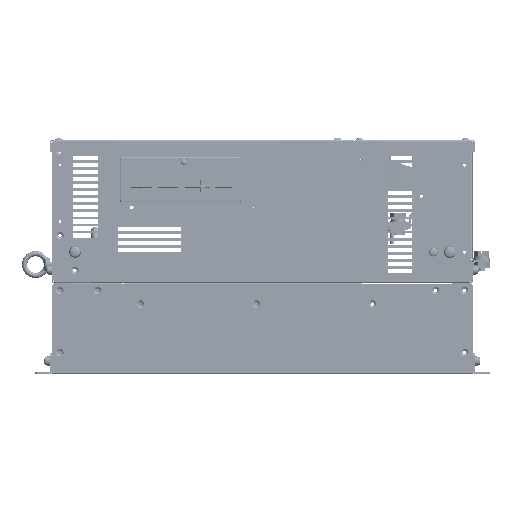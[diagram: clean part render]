
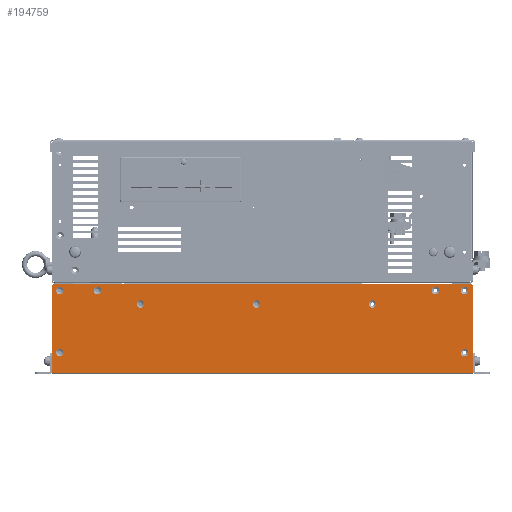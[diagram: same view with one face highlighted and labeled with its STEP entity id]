
A CAD part, left-side view. The second image highlights one B-rep face of the part: STEP entity #194759.
In plain terms, the highlighted planar face has unit normal (-1, 0, 0).
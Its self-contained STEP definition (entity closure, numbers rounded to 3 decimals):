
#52277=DIRECTION('',(0.,0.707,0.707));
#52278=VECTOR('',#52277,2.828);
#52279=CARTESIAN_POINT('',(-152.5,-254.,107.6));
#52280=LINE('',#52279,#52278);
#52281=DIRECTION('',(0.,0.,1.));
#52282=VECTOR('',#52281,105.5);
#52283=CARTESIAN_POINT('',(-152.5,-254.,2.1));
#52284=LINE('',#52283,#52282);
#52285=DIRECTION('',(0.,0.,-1.));
#52286=VECTOR('',#52285,105.5);
#52287=CARTESIAN_POINT('',(-152.5,254.,107.6));
#52288=LINE('',#52287,#52286);
#52289=DIRECTION('',(0.,0.707,-0.707));
#52290=VECTOR('',#52289,2.828);
#52291=CARTESIAN_POINT('',(-152.5,252.,109.6));
#52292=LINE('',#52291,#52290);
#52293=DIRECTION('',(0.,1.,0.));
#52294=VECTOR('',#52293,504.);
#52295=CARTESIAN_POINT('',(-152.5,-252.,109.6));
#52296=LINE('',#52295,#52294);
#52297=CARTESIAN_POINT('',(-152.5,147.,84.9));
#52298=DIRECTION('',(1.,0.,0.));
#52299=DIRECTION('',(0.,-1.,0.));
#52300=AXIS2_PLACEMENT_3D('',#52297,#52298,#52299);
#52302=CARTESIAN_POINT('',(-152.5,147.,84.9));
#52303=DIRECTION('',(1.,0.,0.));
#52304=DIRECTION('',(0.,1.,0.));
#52305=AXIS2_PLACEMENT_3D('',#52302,#52303,#52304);
#52307=CARTESIAN_POINT('',(-152.5,7.,84.9));
#52308=DIRECTION('',(1.,0.,0.));
#52309=DIRECTION('',(0.,-1.,0.));
#52310=AXIS2_PLACEMENT_3D('',#52307,#52308,#52309);
#52312=CARTESIAN_POINT('',(-152.5,7.,84.9));
#52313=DIRECTION('',(1.,0.,0.));
#52314=DIRECTION('',(0.,1.,0.));
#52315=AXIS2_PLACEMENT_3D('',#52312,#52313,#52314);
#52317=CARTESIAN_POINT('',(-152.5,-133.,84.9));
#52318=DIRECTION('',(1.,0.,0.));
#52319=DIRECTION('',(0.,-1.,0.));
#52320=AXIS2_PLACEMENT_3D('',#52317,#52318,#52319);
#52322=CARTESIAN_POINT('',(-152.5,-133.,84.9));
#52323=DIRECTION('',(1.,0.,0.));
#52324=DIRECTION('',(0.,1.,0.));
#52325=AXIS2_PLACEMENT_3D('',#52322,#52323,#52324);
#52327=CARTESIAN_POINT('',(-152.5,244.4,26.2));
#52328=DIRECTION('',(1.,0.,0.));
#52329=DIRECTION('',(0.,0.,1.));
#52330=AXIS2_PLACEMENT_3D('',#52327,#52328,#52329);
#52332=CARTESIAN_POINT('',(-152.5,244.4,26.2));
#52333=DIRECTION('',(1.,0.,0.));
#52334=DIRECTION('',(0.,0.,-1.));
#52335=AXIS2_PLACEMENT_3D('',#52332,#52333,#52334);
#52337=CARTESIAN_POINT('',(-152.5,244.4,101.2));
#52338=DIRECTION('',(1.,0.,0.));
#52339=DIRECTION('',(0.,0.,1.));
#52340=AXIS2_PLACEMENT_3D('',#52337,#52338,#52339);
#52342=CARTESIAN_POINT('',(-152.5,244.4,101.2));
#52343=DIRECTION('',(1.,0.,0.));
#52344=DIRECTION('',(0.,0.,-1.));
#52345=AXIS2_PLACEMENT_3D('',#52342,#52343,#52344);
#52347=CARTESIAN_POINT('',(-152.5,-244.4,26.2));
#52348=DIRECTION('',(1.,0.,0.));
#52349=DIRECTION('',(0.,0.,1.));
#52350=AXIS2_PLACEMENT_3D('',#52347,#52348,#52349);
#52352=CARTESIAN_POINT('',(-152.5,-244.4,26.2));
#52353=DIRECTION('',(1.,0.,0.));
#52354=DIRECTION('',(0.,0.,-1.));
#52355=AXIS2_PLACEMENT_3D('',#52352,#52353,#52354);
#52357=CARTESIAN_POINT('',(-152.5,-244.4,101.2));
#52358=DIRECTION('',(1.,0.,0.));
#52359=DIRECTION('',(0.,0.,1.));
#52360=AXIS2_PLACEMENT_3D('',#52357,#52358,#52359);
#52362=CARTESIAN_POINT('',(-152.5,-244.4,101.2));
#52363=DIRECTION('',(1.,0.,0.));
#52364=DIRECTION('',(0.,0.,-1.));
#52365=AXIS2_PLACEMENT_3D('',#52362,#52363,#52364);
#52367=CARTESIAN_POINT('',(-152.5,198.8,101.2));
#52368=DIRECTION('',(1.,0.,0.));
#52369=DIRECTION('',(0.,-1.,0.));
#52370=AXIS2_PLACEMENT_3D('',#52367,#52368,#52369);
#52372=CARTESIAN_POINT('',(-152.5,198.8,101.2));
#52373=DIRECTION('',(1.,0.,0.));
#52374=DIRECTION('',(0.,1.,0.));
#52375=AXIS2_PLACEMENT_3D('',#52372,#52373,#52374);
#52377=CARTESIAN_POINT('',(-152.5,-209.,101.2));
#52378=DIRECTION('',(1.,0.,0.));
#52379=DIRECTION('',(0.,-1.,0.));
#52380=AXIS2_PLACEMENT_3D('',#52377,#52378,#52379);
#52382=CARTESIAN_POINT('',(-152.5,-209.,101.2));
#52383=DIRECTION('',(1.,0.,0.));
#52384=DIRECTION('',(0.,1.,0.));
#52385=AXIS2_PLACEMENT_3D('',#52382,#52383,#52384);
#52387=DIRECTION('',(0.,-1.,0.));
#52388=VECTOR('',#52387,508.);
#52389=CARTESIAN_POINT('',(-152.5,254.,2.1));
#52390=LINE('',#52389,#52388);
#76624=CARTESIAN_POINT('',(-152.5,254.,2.1));
#76625=CARTESIAN_POINT('',(-152.5,-254.,2.1));
#76626=VERTEX_POINT('',#76624);
#76627=VERTEX_POINT('',#76625);
#76690=CARTESIAN_POINT('',(-152.5,244.4,30.775));
#76691=CARTESIAN_POINT('',(-152.5,244.4,21.625));
#76692=VERTEX_POINT('',#76690);
#76693=VERTEX_POINT('',#76691);
#76698=CARTESIAN_POINT('',(-152.5,244.4,105.775));
#76699=CARTESIAN_POINT('',(-152.5,244.4,96.625));
#76700=VERTEX_POINT('',#76698);
#76701=VERTEX_POINT('',#76699);
#76706=CARTESIAN_POINT('',(-152.5,-244.4,30.775));
#76707=CARTESIAN_POINT('',(-152.5,-244.4,21.625));
#76708=VERTEX_POINT('',#76706);
#76709=VERTEX_POINT('',#76707);
#76714=CARTESIAN_POINT('',(-152.5,-244.4,105.775));
#76715=CARTESIAN_POINT('',(-152.5,-244.4,96.625));
#76716=VERTEX_POINT('',#76714);
#76717=VERTEX_POINT('',#76715);
#76800=CARTESIAN_POINT('',(-152.5,142.425,84.9));
#76801=CARTESIAN_POINT('',(-152.5,151.575,84.9));
#76802=VERTEX_POINT('',#76800);
#76803=VERTEX_POINT('',#76801);
#76808=CARTESIAN_POINT('',(-152.5,2.425,84.9));
#76809=CARTESIAN_POINT('',(-152.5,11.575,84.9));
#76810=VERTEX_POINT('',#76808);
#76811=VERTEX_POINT('',#76809);
#76816=CARTESIAN_POINT('',(-152.5,-137.575,84.9));
#76817=CARTESIAN_POINT('',(-152.5,-128.425,84.9));
#76818=VERTEX_POINT('',#76816);
#76819=VERTEX_POINT('',#76817);
#76844=CARTESIAN_POINT('',(-152.5,-254.,107.6));
#76845=VERTEX_POINT('',#76844);
#76846=CARTESIAN_POINT('',(-152.5,-252.,109.6));
#76847=VERTEX_POINT('',#76846);
#76852=CARTESIAN_POINT('',(-152.5,252.,109.6));
#76853=VERTEX_POINT('',#76852);
#76854=CARTESIAN_POINT('',(-152.5,254.,107.6));
#76855=VERTEX_POINT('',#76854);
#76888=CARTESIAN_POINT('',(-152.5,194.225,101.2));
#76889=CARTESIAN_POINT('',(-152.5,203.375,101.2));
#76890=VERTEX_POINT('',#76888);
#76891=VERTEX_POINT('',#76889);
#76912=CARTESIAN_POINT('',(-152.5,-213.575,101.2));
#76913=CARTESIAN_POINT('',(-152.5,-204.425,101.2));
#76914=VERTEX_POINT('',#76912);
#76915=VERTEX_POINT('',#76913);
#194688=CARTESIAN_POINT('',(-152.5,0.,0.));
#194689=DIRECTION('',(-1.,0.,0.));
#194690=DIRECTION('',(0.,-1.,0.));
#194691=AXIS2_PLACEMENT_3D('',#194688,#194689,#194690);
#194692=PLANE('',#194691);
#194693=ORIENTED_EDGE('',*,*,#194668,.F.);
#194694=ORIENTED_EDGE('',*,*,#194683,.F.);
#194696=ORIENTED_EDGE('',*,*,#194695,.F.);
#194698=ORIENTED_EDGE('',*,*,#194697,.F.);
#194700=ORIENTED_EDGE('',*,*,#194699,.F.);
#194702=ORIENTED_EDGE('',*,*,#194701,.F.);
#194703=EDGE_LOOP('',(#194693,#194694,#194696,#194698,#194700,#194702));
#194704=FACE_OUTER_BOUND('',#194703,.F.);
#194706=ORIENTED_EDGE('',*,*,#194705,.F.);
#194708=ORIENTED_EDGE('',*,*,#194707,.F.);
#194709=EDGE_LOOP('',(#194706,#194708));
#194710=FACE_BOUND('',#194709,.F.);
#194712=ORIENTED_EDGE('',*,*,#194711,.F.);
#194714=ORIENTED_EDGE('',*,*,#194713,.F.);
#194715=EDGE_LOOP('',(#194712,#194714));
#194716=FACE_BOUND('',#194715,.F.);
#194718=ORIENTED_EDGE('',*,*,#194717,.F.);
#194720=ORIENTED_EDGE('',*,*,#194719,.F.);
#194721=EDGE_LOOP('',(#194718,#194720));
#194722=FACE_BOUND('',#194721,.F.);
#194724=ORIENTED_EDGE('',*,*,#194723,.F.);
#194726=ORIENTED_EDGE('',*,*,#194725,.F.);
#194727=EDGE_LOOP('',(#194724,#194726));
#194728=FACE_BOUND('',#194727,.F.);
#194730=ORIENTED_EDGE('',*,*,#194729,.F.);
#194732=ORIENTED_EDGE('',*,*,#194731,.F.);
#194733=EDGE_LOOP('',(#194730,#194732));
#194734=FACE_BOUND('',#194733,.F.);
#194736=ORIENTED_EDGE('',*,*,#194735,.F.);
#194738=ORIENTED_EDGE('',*,*,#194737,.F.);
#194739=EDGE_LOOP('',(#194736,#194738));
#194740=FACE_BOUND('',#194739,.F.);
#194742=ORIENTED_EDGE('',*,*,#194741,.F.);
#194744=ORIENTED_EDGE('',*,*,#194743,.F.);
#194745=EDGE_LOOP('',(#194742,#194744));
#194746=FACE_BOUND('',#194745,.F.);
#194748=ORIENTED_EDGE('',*,*,#194747,.F.);
#194750=ORIENTED_EDGE('',*,*,#194749,.F.);
#194751=EDGE_LOOP('',(#194748,#194750));
#194752=FACE_BOUND('',#194751,.F.);
#194754=ORIENTED_EDGE('',*,*,#194753,.F.);
#194756=ORIENTED_EDGE('',*,*,#194755,.F.);
#194757=EDGE_LOOP('',(#194754,#194756));
#194758=FACE_BOUND('',#194757,.F.);
#194759=ADVANCED_FACE('',(#194704,#194710,#194716,#194722,#194728,#194734,
#194740,#194746,#194752,#194758),#194692,.T.);
#52301=CIRCLE('',#52300,4.575);
#52306=CIRCLE('',#52305,4.575);
#52311=CIRCLE('',#52310,4.575);
#52316=CIRCLE('',#52315,4.575);
#52321=CIRCLE('',#52320,4.575);
#52326=CIRCLE('',#52325,4.575);
#52331=CIRCLE('',#52330,4.575);
#52336=CIRCLE('',#52335,4.575);
#52341=CIRCLE('',#52340,4.575);
#52346=CIRCLE('',#52345,4.575);
#52351=CIRCLE('',#52350,4.575);
#52356=CIRCLE('',#52355,4.575);
#52361=CIRCLE('',#52360,4.575);
#52366=CIRCLE('',#52365,4.575);
#52371=CIRCLE('',#52370,4.575);
#52376=CIRCLE('',#52375,4.575);
#52381=CIRCLE('',#52380,4.575);
#52386=CIRCLE('',#52385,4.575);
#194668=EDGE_CURVE('',#76845,#76847,#52280,.T.);
#194683=EDGE_CURVE('',#76627,#76845,#52284,.T.);
#194695=EDGE_CURVE('',#76626,#76627,#52390,.T.);
#194697=EDGE_CURVE('',#76855,#76626,#52288,.T.);
#194699=EDGE_CURVE('',#76853,#76855,#52292,.T.);
#194701=EDGE_CURVE('',#76847,#76853,#52296,.T.);
#194705=EDGE_CURVE('',#76802,#76803,#52301,.T.);
#194707=EDGE_CURVE('',#76803,#76802,#52306,.T.);
#194711=EDGE_CURVE('',#76810,#76811,#52311,.T.);
#194713=EDGE_CURVE('',#76811,#76810,#52316,.T.);
#194717=EDGE_CURVE('',#76818,#76819,#52321,.T.);
#194719=EDGE_CURVE('',#76819,#76818,#52326,.T.);
#194723=EDGE_CURVE('',#76692,#76693,#52331,.T.);
#194725=EDGE_CURVE('',#76693,#76692,#52336,.T.);
#194729=EDGE_CURVE('',#76700,#76701,#52341,.T.);
#194731=EDGE_CURVE('',#76701,#76700,#52346,.T.);
#194735=EDGE_CURVE('',#76708,#76709,#52351,.T.);
#194737=EDGE_CURVE('',#76709,#76708,#52356,.T.);
#194741=EDGE_CURVE('',#76716,#76717,#52361,.T.);
#194743=EDGE_CURVE('',#76717,#76716,#52366,.T.);
#194747=EDGE_CURVE('',#76890,#76891,#52371,.T.);
#194749=EDGE_CURVE('',#76891,#76890,#52376,.T.);
#194753=EDGE_CURVE('',#76914,#76915,#52381,.T.);
#194755=EDGE_CURVE('',#76915,#76914,#52386,.T.);
